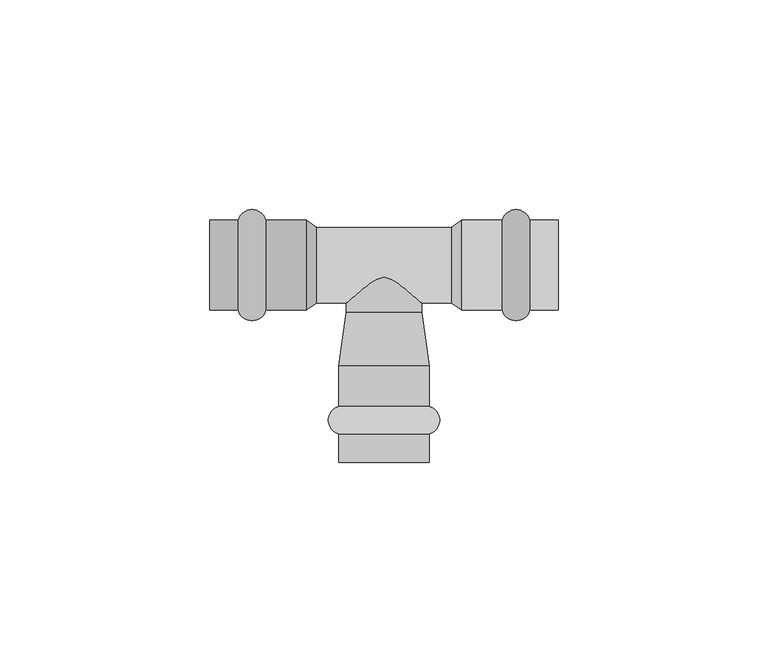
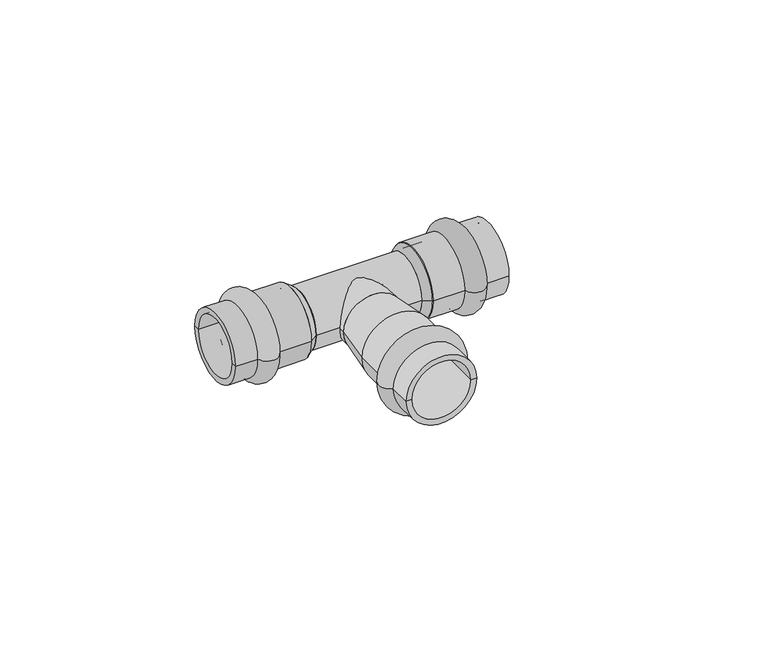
"""IFC4 building model written with IfcOpenShell, lengths in millimetres: pipe fitting geometry, VALTEC_VTi.931.I_Тройник_Ннержавеющая сталь : VTi.931.I."""

from ifc_helpers import new_model, si_unit, point, frame, origin, origin_2d, place, context, project, spatial, polyline, circle_curve, ellipse_curve, trimmed, segment, composite_curve, outline, extrude, source, transform, mapped, element, save
from ifc_brep_helpers import plane_surface, cylinder_surface, revolved_surface, advanced_brep


def pipe_fitting_aa639e23(model_context):
    return source(origin(), model_context, "Body", "SolidModel", [
        advanced_brep(
        [(10.75, -40.2287193, 0.0), (-10.75, -40.2287193, 0.0), (-10.75, -33.6712807, 0.0), (10.75, -33.6712807, 0.0), (10.75, -47.0, 0.0), (-10.75, -47.0, 0.0), (9.0, -47.0, 0.0), (-9.0, -47.0, 0.0), (9.0, -24.0, 0.0), (-9.0, -24.0, 0.0), (10.75, -24.0, 0.0), (-10.75, -24.0, 0.0)],
        [
            (0, 1, circle_curve(frame((0.0, -40.2287193, 0.0), z_axis=(0.0, 1.0, 0.0), x_axis=(-1.0, 0.0, 0.0)), 10.75)),
            (1, 2, circle_curve(frame((-9.85, -36.95, 0.0), z_axis=(0.0, 0.0, -1.0), x_axis=(0.0, 1.0, 0.0)), 3.4)),
            (2, 3, circle_curve(frame((0.0, -33.6712807, 0.0), z_axis=(0.0, -1.0, 0.0), x_axis=(-1.0, 0.0, 0.0)), 10.75)),
            (3, 0, circle_curve(frame((9.85, -36.95, 0.0), z_axis=(0.0, 0.0, -1.0), x_axis=(0.0, 1.0, 0.0)), 3.4)),
            (1, 0, circle_curve(frame((0.0, -40.2287193, 0.0), z_axis=(0.0, 1.0, 0.0), x_axis=(-1.0, 0.0, 0.0)), 10.75)),
            (3, 2, circle_curve(frame((0.0, -33.6712807, 0.0), z_axis=(0.0, -1.0, 0.0), x_axis=(-1.0, 0.0, 0.0)), 10.75)),
            (4, 5, circle_curve(frame((0.0, -47.0, 0.0), z_axis=(0.0, 1.0, 0.0), x_axis=(-1.0, 0.0, 0.0)), 10.75)),
            (5, 1),
            (0, 4),
            (5, 4, circle_curve(frame((0.0, -47.0, 0.0), z_axis=(0.0, 1.0, 0.0), x_axis=(-1.0, 0.0, 0.0)), 10.75)),
            (6, 7, circle_curve(frame((0.0, -47.0, 0.0), z_axis=(0.0, 1.0, 0.0), x_axis=(-1.0, 0.0, 0.0)), 9.0)),
            (7, 5),
            (4, 6),
            (7, 6, circle_curve(frame((0.0, -47.0, 0.0), z_axis=(0.0, 1.0, 0.0), x_axis=(-1.0, 0.0, 0.0)), 9.0)),
            (8, 9, circle_curve(frame((0.0, -24.0, 0.0), z_axis=(0.0, 1.0, 0.0), x_axis=(-1.0, 0.0, 0.0)), 9.0)),
            (9, 7),
            (6, 8),
            (9, 8, circle_curve(frame((0.0, -24.0, 0.0), z_axis=(0.0, 1.0, 0.0), x_axis=(-1.0, 0.0, 0.0)), 9.0)),
            (10, 11, circle_curve(frame((0.0, -24.0, 0.0), z_axis=(0.0, 1.0, 0.0), x_axis=(-1.0, 0.0, 0.0)), 10.75)),
            (11, 9),
            (8, 10),
            (11, 10, circle_curve(frame((0.0, -24.0, 0.0), z_axis=(0.0, 1.0, 0.0), x_axis=(-1.0, 0.0, 0.0)), 10.75)),
            (2, 11),
            (10, 3),
        ],
        [
            revolved_surface(trimmed(ellipse_curve(frame((-9.85, -36.95, 0.0), z_axis=(0.0, 0.0, 1.0), x_axis=(0.0, 1.0, 0.0)), 3.4, 3.4), [point((-10.75, -33.6712807, 0.0))], [point((-10.75, -40.2287193, 0.0))], True, "CARTESIAN"), (0.0, -50.5364426, 0.0), (0.0, -1.0, 0.0)),
            cylinder_surface(frame((0.0, -50.5364426, 0.0), z_axis=(0.0, -1.0, 0.0), x_axis=(-1.0, 0.0, 0.0)), 10.75),
            plane_surface(frame((0.0, -47.0, 0.0), z_axis=(0.0, -1.0, 0.0), x_axis=(-1.0, 0.0, 0.0))),
            revolved_surface(polyline([(-9.0, -47.0, 0.0), (-9.0, -24.0, 0.0)]), (0.0, -50.5364426, 0.0), (0.0, -1.0, 0.0)),
            plane_surface(frame((0.0, -24.0, 0.0), z_axis=(0.0, 1.0, 0.0), x_axis=(-1.0, 0.0, 0.0))),
        ],
        [
            (0, [[1, 2, 3, 4]]),
            (0, [[5, -4, 6, -2]]),
            (1, [[7, 8, -1, 9]]),
            (1, [[10, -9, -5, -8]]),
            (2, [[11, 12, -7, 13]]),
            (2, [[14, -13, -10, -12]]),
            (3, [[15, 16, -11, 17]]),
            (3, [[18, -17, -14, -16]]),
            (4, [[19, 20, -15, 21]]),
            (4, [[22, -21, -18, -20]]),
            (1, [[-3, 23, -19, 24]]),
            (1, [[-6, -24, -22, -23]]),
        ],
    ),
        advanced_brep(
        [(34.7287193, 10.75, 0.0), (34.7287193, -10.75, 0.0), (28.1712807, -10.75, 0.0), (28.1712807, 10.75, 0.0), (41.5, 10.75, 0.0), (41.5, -10.75, 0.0), (41.5, 9.0, 0.0), (41.5, -9.0, 0.0), (18.5, 9.0, 0.0), (18.5, -9.0, 0.0), (18.5, 10.75, 0.0), (18.5, -10.75, 0.0)],
        [
            (0, 1, circle_curve(frame((34.7287193, 0.0, 0.0), z_axis=(-1.0, 0.0, 0.0), x_axis=(0.0, -1.0, 0.0)), 10.75)),
            (1, 2, circle_curve(frame((31.45, -9.85, 0.0), z_axis=(0.0, 0.0, -1.0), x_axis=(-1.0, 0.0, 0.0)), 3.4)),
            (2, 3, circle_curve(frame((28.1712807, 0.0, 0.0), z_axis=(1.0, 0.0, 0.0), x_axis=(0.0, -1.0, 0.0)), 10.75)),
            (3, 0, circle_curve(frame((31.45, 9.85, 0.0), z_axis=(0.0, 0.0, -1.0), x_axis=(-1.0, 0.0, 0.0)), 3.4)),
            (1, 0, circle_curve(frame((34.7287193, 0.0, 0.0), z_axis=(-1.0, 0.0, 0.0), x_axis=(0.0, -1.0, 0.0)), 10.75)),
            (3, 2, circle_curve(frame((28.1712807, 0.0, 0.0), z_axis=(1.0, 0.0, 0.0), x_axis=(0.0, -1.0, 0.0)), 10.75)),
            (4, 5, circle_curve(frame((41.5, 0.0, 0.0), z_axis=(-1.0, 0.0, 0.0), x_axis=(0.0, -1.0, 0.0)), 10.75)),
            (5, 1),
            (0, 4),
            (5, 4, circle_curve(frame((41.5, 0.0, 0.0), z_axis=(-1.0, 0.0, 0.0), x_axis=(0.0, -1.0, 0.0)), 10.75)),
            (6, 7, circle_curve(frame((41.5, 0.0, 0.0), z_axis=(-1.0, 0.0, 0.0), x_axis=(0.0, -1.0, 0.0)), 9.0)),
            (7, 5),
            (4, 6),
            (7, 6, circle_curve(frame((41.5, 0.0, 0.0), z_axis=(-1.0, 0.0, 0.0), x_axis=(0.0, -1.0, 0.0)), 9.0)),
            (8, 9, circle_curve(frame((18.5, 0.0, 0.0), z_axis=(-1.0, 0.0, 0.0), x_axis=(0.0, -1.0, 0.0)), 9.0)),
            (9, 7),
            (6, 8),
            (9, 8, circle_curve(frame((18.5, 0.0, 0.0), z_axis=(-1.0, 0.0, 0.0), x_axis=(0.0, -1.0, 0.0)), 9.0)),
            (10, 11, circle_curve(frame((18.5, 0.0, 0.0), z_axis=(-1.0, 0.0, 0.0), x_axis=(0.0, -1.0, 0.0)), 10.75)),
            (11, 9),
            (8, 10),
            (11, 10, circle_curve(frame((18.5, 0.0, 0.0), z_axis=(-1.0, 0.0, 0.0), x_axis=(0.0, -1.0, 0.0)), 10.75)),
            (2, 11),
            (10, 3),
        ],
        [
            revolved_surface(trimmed(ellipse_curve(frame((31.45, -9.85, 0.0), z_axis=(0.0, 0.0, 1.0), x_axis=(-1.0, 0.0, 0.0)), 3.4, 3.4), [point((28.1712807, -10.75, 0.0))], [point((34.7287193, -10.75, 0.0))], True, "CARTESIAN"), (45.0364426, 0.0, 0.0), (1.0, 0.0, 0.0)),
            cylinder_surface(frame((45.0364426, 0.0, 0.0), z_axis=(1.0, 0.0, 0.0), x_axis=(0.0, -1.0, 0.0)), 10.75),
            plane_surface(frame((41.5, 0.0, 0.0), z_axis=(1.0, 0.0, 0.0), x_axis=(0.0, -1.0, 0.0))),
            revolved_surface(polyline([(41.5, -9.0, 0.0), (18.5, -9.0, 0.0)]), (45.0364426, 0.0, 0.0), (1.0, 0.0, 0.0)),
            plane_surface(frame((18.5, 0.0, 0.0), z_axis=(-1.0, 0.0, 0.0), x_axis=(0.0, -1.0, 0.0))),
        ],
        [
            (0, [[1, 2, 3, 4]]),
            (0, [[5, -4, 6, -2]]),
            (1, [[7, 8, -1, 9]]),
            (1, [[10, -9, -5, -8]]),
            (2, [[11, 12, -7, 13]]),
            (2, [[14, -13, -10, -12]]),
            (3, [[15, 16, -11, 17]]),
            (3, [[18, -17, -14, -16]]),
            (4, [[19, 20, -15, 21]]),
            (4, [[22, -21, -18, -20]]),
            (1, [[-3, 23, -19, 24]]),
            (1, [[-6, -24, -22, -23]]),
        ],
    ),
        advanced_brep(
        [(-34.7287193, -10.75, 0.0), (-34.7287193, 10.75, 0.0), (-28.1712807, 10.75, 0.0), (-28.1712807, -10.75, 0.0), (-41.5, -10.75, 0.0), (-41.5, 10.75, 0.0), (-41.5, -9.0, 0.0), (-41.5, 9.0, 0.0), (-18.5, -9.0, 0.0), (-18.5, 9.0, 0.0), (-18.5, -10.75, 0.0), (-18.5, 10.75, 0.0)],
        [
            (0, 1, circle_curve(frame((-34.7287193, 0.0, 0.0), z_axis=(1.0, 0.0, 0.0), x_axis=(0.0, 1.0, 0.0)), 10.75)),
            (1, 2, circle_curve(frame((-31.45, 9.85, 0.0), z_axis=(0.0, 0.0, -1.0), x_axis=(1.0, 0.0, 0.0)), 3.4)),
            (2, 3, circle_curve(frame((-28.1712807, 0.0, 0.0), z_axis=(-1.0, 0.0, 0.0), x_axis=(0.0, 1.0, 0.0)), 10.75)),
            (3, 0, circle_curve(frame((-31.45, -9.85, 0.0), z_axis=(0.0, 0.0, -1.0), x_axis=(1.0, 0.0, 0.0)), 3.4)),
            (1, 0, circle_curve(frame((-34.7287193, 0.0, 0.0), z_axis=(1.0, 0.0, 0.0), x_axis=(0.0, 1.0, 0.0)), 10.75)),
            (3, 2, circle_curve(frame((-28.1712807, 0.0, 0.0), z_axis=(-1.0, 0.0, 0.0), x_axis=(0.0, 1.0, 0.0)), 10.75)),
            (4, 5, circle_curve(frame((-41.5, 0.0, 0.0), z_axis=(1.0, 0.0, 0.0), x_axis=(0.0, 1.0, 0.0)), 10.75)),
            (5, 1),
            (0, 4),
            (5, 4, circle_curve(frame((-41.5, 0.0, 0.0), z_axis=(1.0, 0.0, 0.0), x_axis=(0.0, 1.0, 0.0)), 10.75)),
            (6, 7, circle_curve(frame((-41.5, 0.0, 0.0), z_axis=(1.0, 0.0, 0.0), x_axis=(0.0, 1.0, 0.0)), 9.0)),
            (7, 5),
            (4, 6),
            (7, 6, circle_curve(frame((-41.5, 0.0, 0.0), z_axis=(1.0, 0.0, 0.0), x_axis=(0.0, 1.0, 0.0)), 9.0)),
            (8, 9, circle_curve(frame((-18.5, 0.0, 0.0), z_axis=(1.0, 0.0, 0.0), x_axis=(0.0, 1.0, 0.0)), 9.0)),
            (9, 7),
            (6, 8),
            (9, 8, circle_curve(frame((-18.5, 0.0, 0.0), z_axis=(1.0, 0.0, 0.0), x_axis=(0.0, 1.0, 0.0)), 9.0)),
            (10, 11, circle_curve(frame((-18.5, 0.0, 0.0), z_axis=(1.0, 0.0, 0.0), x_axis=(0.0, 1.0, 0.0)), 10.75)),
            (11, 9),
            (8, 10),
            (11, 10, circle_curve(frame((-18.5, 0.0, 0.0), z_axis=(1.0, 0.0, 0.0), x_axis=(0.0, 1.0, 0.0)), 10.75)),
            (2, 11),
            (10, 3),
        ],
        [
            revolved_surface(trimmed(ellipse_curve(frame((-31.45, 9.85, 0.0), z_axis=(0.0, 0.0, 1.0), x_axis=(1.0, 0.0, 0.0)), 3.4, 3.4), [point((-28.1712807, 10.75, 0.0))], [point((-34.7287193, 10.75, 0.0))], True, "CARTESIAN"), (-45.0364426, 0.0, 0.0), (-1.0, 0.0, 0.0)),
            cylinder_surface(frame((-45.0364426, 0.0, 0.0), z_axis=(-1.0, 0.0, 0.0), x_axis=(0.0, 1.0, 0.0)), 10.75),
            plane_surface(frame((-41.5, 0.0, 0.0), z_axis=(-1.0, 0.0, 0.0), x_axis=(0.0, 1.0, 0.0))),
            revolved_surface(polyline([(-41.5, 9.0, 0.0), (-18.5, 9.0, 0.0)]), (-45.0364426, 0.0, 0.0), (-1.0, 0.0, 0.0)),
            plane_surface(frame((-18.5, 0.0, 0.0), z_axis=(1.0, 0.0, 0.0), x_axis=(0.0, 1.0, 0.0))),
        ],
        [
            (0, [[1, 2, 3, 4]]),
            (0, [[5, -4, 6, -2]]),
            (1, [[7, 8, -1, 9]]),
            (1, [[10, -9, -5, -8]]),
            (2, [[11, 12, -7, 13]]),
            (2, [[14, -13, -10, -12]]),
            (3, [[15, 16, -11, 17]]),
            (3, [[18, -17, -14, -16]]),
            (4, [[19, 20, -15, 21]]),
            (4, [[22, -21, -18, -20]]),
            (1, [[-3, 23, -19, 24]]),
            (1, [[-6, -24, -22, -23]]),
        ],
    ),
        extrude(outline(composite_curve([segment(trimmed(circle_curve(origin_2d(), 9.0), [point((-9.0, 0.0))], [point((9.0, 0.0))], False, "CARTESIAN"), True, "CONTINUOUS"), segment(trimmed(circle_curve(origin_2d(), 9.0), [point((9.0, 0.0))], [point((-9.0, 0.0))], False, "CARTESIAN"), True, "CONTINUOUS")], self_intersect=False)), frame((-16.0, 0.0, 0.0), z_axis=(1.0, 0.0, 0.0), x_axis=(0.0, 1.0, 0.0)), (0.0, 0.0, 1.0), 32.0),
        advanced_brep(
        [(-10.75, -24.0, 0.0), (10.75, -24.0, 0.0), (-9.0, -11.3209826, 0.0), (9.0, -11.3209826, 0.0)],
        [
            (0, 1, circle_curve(frame((0.0, -24.0, 0.0), z_axis=(0.0, -1.0, 0.0), x_axis=(-1.0, 0.0, 0.0)), 10.75)),
            (1, 0, circle_curve(frame((0.0, -24.0, 0.0), z_axis=(0.0, -1.0, 0.0), x_axis=(1.0, 0.0, 0.0)), 10.75)),
            (2, 3, circle_curve(frame((0.0, -11.3209826, 0.0), z_axis=(0.0, 1.0, 0.0), x_axis=(1.0, 0.0, 0.0)), 9.0)),
            (3, 2, circle_curve(frame((0.0, -11.3209826, 0.0), z_axis=(0.0, 1.0, 0.0), x_axis=(-1.0, 0.0, 0.0)), 9.0)),
            (3, 1),
            (0, 2),
        ],
        [
            plane_surface(frame((0.0, -24.0, 0.0), z_axis=(0.0, -1.0, 0.0), x_axis=(0.0, 0.0, 1.0))),
            plane_surface(frame((0.0, -11.3209826, 0.0), z_axis=(0.0, 1.0, 0.0), x_axis=(0.0, 0.0, 1.0))),
            revolved_surface(polyline([(9.0, -11.320982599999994, 0.0), (10.75, -24.0, 0.0)]), (0.0, 53.8853926, 0.0), (0.0, -1.0, 0.0)),
            revolved_surface(polyline([(-9.0, -11.320982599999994, 0.0), (-10.75, -24.0, 0.0)]), (0.0, 53.8853926, 0.0), (0.0, -1.0, 0.0)),
        ],
        [
            (0, [[1, 2]]),
            (1, [[3, 4]]),
            (2, [[-4, 5, -1, 6]]),
            (3, [[-3, -6, -2, -5]]),
        ],
    ),
        extrude(outline(composite_curve([segment(trimmed(circle_curve(origin_2d(), 9.0), [point((0.0, -9.0))], [point((0.0, 9.0))], False, "CARTESIAN"), True, "CONTINUOUS"), segment(trimmed(circle_curve(origin_2d(), 9.0), [point((0.0, 9.0))], [point((0.0, -9.0))], False, "CARTESIAN"), True, "CONTINUOUS")], self_intersect=False)), frame((0.0, -11.3209826, 0.0), z_axis=(0.0, 1.0, 0.0), x_axis=(0.0, 0.0, 1.0)), (0.0, 0.0, 1.0), 11.3209826),
        advanced_brep(
        [(18.5, -10.75, 0.0), (18.5, 10.75, 0.0), (16.0, -9.0, 0.0), (16.0, 9.0, 0.0)],
        [
            (0, 1, circle_curve(frame((18.5, 0.0, 0.0), z_axis=(1.0, 0.0, 0.0), x_axis=(0.0, -1.0, 0.0)), 10.75)),
            (1, 0, circle_curve(frame((18.5, 0.0, 0.0), z_axis=(1.0, 0.0, 0.0), x_axis=(0.0, 1.0, 0.0)), 10.75)),
            (2, 3, circle_curve(frame((16.0, 0.0, 0.0), z_axis=(-1.0, 0.0, 0.0), x_axis=(0.0, 1.0, 0.0)), 9.0)),
            (3, 2, circle_curve(frame((16.0, 0.0, 0.0), z_axis=(-1.0, 0.0, 0.0), x_axis=(0.0, -1.0, 0.0)), 9.0)),
            (3, 1),
            (0, 2),
        ],
        [
            plane_surface(frame((18.5, 0.0, 0.0), z_axis=(1.0, 0.0, 0.0), x_axis=(0.0, 0.0, 1.0))),
            plane_surface(frame((16.0, 0.0, 0.0), z_axis=(-1.0, 0.0, 0.0), x_axis=(0.0, 0.0, 1.0))),
            revolved_surface(polyline([(16.0, 9.000000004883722, 0.0), (18.5, 10.75, 0.0)]), (3.1428571, 0.0, 0.0), (1.0, 0.0, 0.0)),
            revolved_surface(polyline([(16.0, -9.000000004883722, 0.0), (18.5, -10.75, 0.0)]), (3.1428571, 0.0, 0.0), (1.0, 0.0, 0.0)),
        ],
        [
            (0, [[1, 2]]),
            (1, [[3, 4]]),
            (2, [[-4, 5, -1, 6]]),
            (3, [[-3, -6, -2, -5]]),
        ],
    ),
        advanced_brep(
        [(-18.5, -10.75, 0.0), (-18.5, 10.75, 0.0), (-16.0, -9.0, 0.0), (-16.0, 9.0, 0.0)],
        [
            (0, 1, circle_curve(frame((-18.5, 0.0, 0.0), z_axis=(-1.0, 0.0, 0.0), x_axis=(0.0, -1.0, 0.0)), 10.75)),
            (1, 0, circle_curve(frame((-18.5, 0.0, 0.0), z_axis=(-1.0, 0.0, 0.0), x_axis=(0.0, 1.0, 0.0)), 10.75)),
            (2, 3, circle_curve(frame((-16.0, 0.0, 0.0), z_axis=(1.0, 0.0, 0.0), x_axis=(0.0, 1.0, 0.0)), 9.0)),
            (3, 2, circle_curve(frame((-16.0, 0.0, 0.0), z_axis=(1.0, 0.0, 0.0), x_axis=(0.0, -1.0, 0.0)), 9.0)),
            (2, 0),
            (1, 3),
        ],
        [
            plane_surface(frame((-18.5, 0.0, 0.0), z_axis=(-1.0, 0.0, 0.0), x_axis=(0.0, 0.0, -1.0))),
            plane_surface(frame((-16.0, 0.0, 0.0), z_axis=(1.0, 0.0, 0.0), x_axis=(0.0, 0.0, -1.0))),
            revolved_surface(polyline([(-16.0, -9.000000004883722, 0.0), (-18.5, -10.75, 0.0)]), (-3.1428571, 0.0, 0.0), (-1.0, 0.0, 0.0)),
            revolved_surface(polyline([(-16.0, 9.000000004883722, 0.0), (-18.5, 10.75, 0.0)]), (-3.1428571, 0.0, 0.0), (-1.0, 0.0, 0.0)),
        ],
        [
            (0, [[1, 2]]),
            (1, [[3, 4]]),
            (2, [[-3, 5, -2, 6]]),
            (3, [[-4, -6, -1, -5]]),
        ],
    ),
    ])


if __name__ == "__main__":
    model = new_model("IFC4")
    model_context = context("Model", 3, world=origin())
    ifc_project = project(units=[si_unit("LENGTHUNIT", "METRE", prefix="MILLI")], contexts=[model_context])
    site = spatial("IfcSite", under=ifc_project)
    building = spatial("IfcBuilding", under=site)
    placement = place(None, origin())
    pipe_fitting_shape = pipe_fitting_aa639e23(model_context)
    element("IfcPipeFitting", 1, ObjectType="VALTEC_VTi.931.I_Тройник_Ннержавеющая сталь : VTi.931.I", at=placement, inside=building, context=model_context, shape_type="MappedRepresentation", body=[
        mapped(pipe_fitting_shape, transform((0.0, 0.0, 0.0), x_axis=(1.0, 0.0, 0.0), y_axis=(0.0, 1.0, 0.0), z_axis=(0.0, 0.0, 1.0))),
    ])
    save(model, "model.ifc")
